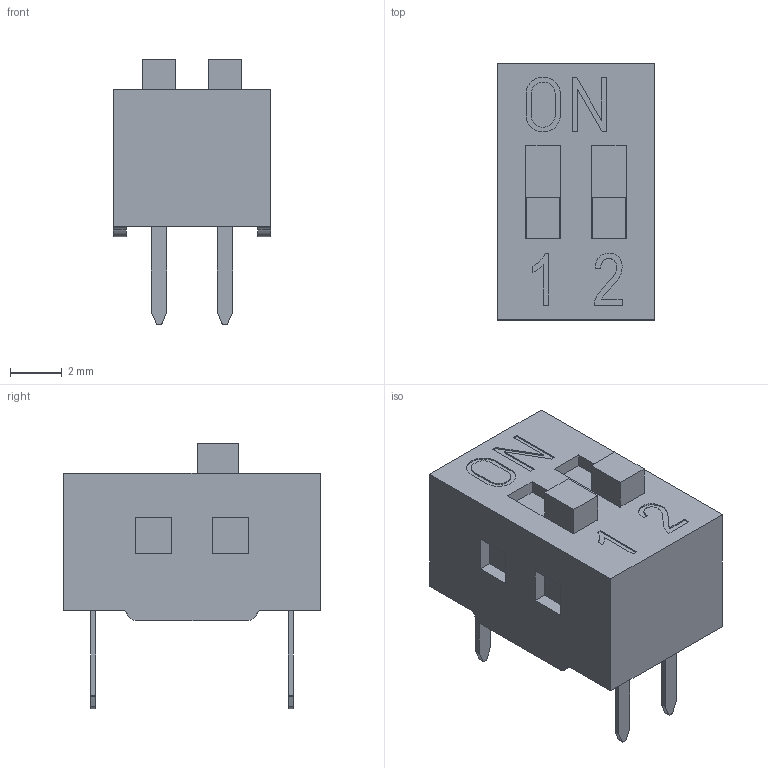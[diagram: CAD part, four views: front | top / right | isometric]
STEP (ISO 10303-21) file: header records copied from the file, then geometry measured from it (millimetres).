
FILE_DESCRIPTION(('FreeCAD Model'),'2;1');
FILE_NAME('C:/Users/Metaltex-99/Desktop/DS/DS-02.stp', '2020-08-11T08:46:25',('Engenharia Metaltex'),('Metaltex'), 'Open CASCADE STEP processor 7.3','FreeCAD','Unknown');
FILE_SCHEMA(('AUTOMOTIVE_DESIGN { 1 0 10303 214 1 1 1 1 }'));
Length unit declared in the file: millimetre
Products named in the file (1): DS-02
Bounding box: 6.08 x 9.9 x 10.25 mm (x, y, z)
Surface area: 806.8 mm2 (no closed solid volume)
Topology: 0 solids, 8 shells, 200 faces, 519 edges, 346 vertices
Faces by surface type: plane 154, cylinder 24, bspline 22
Entity records: 13076 total; most frequent: CARTESIAN_POINT 2758, DIRECTION 1791, LINE 1329, VECTOR 1329, ORIENTED_EDGE 1038, PCURVE 1038, DEFINITIONAL_REPRESENTATION 1038, EDGE_CURVE 519
